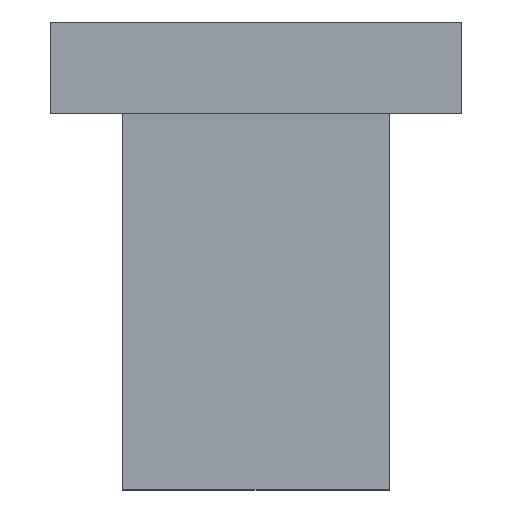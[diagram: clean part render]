
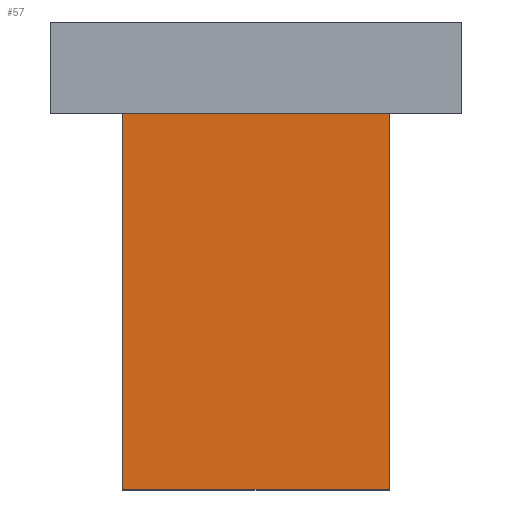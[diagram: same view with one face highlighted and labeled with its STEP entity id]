
A CAD part, top view. The second image highlights one B-rep face of the part: STEP entity #57.
In plain terms, the highlighted planar face has unit normal (0, 0, 1).
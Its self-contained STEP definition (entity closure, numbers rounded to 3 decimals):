
#21 = EDGE_CURVE('',#22,#24,#26,.T.);
#22 = VERTEX_POINT('',#23);
#23 = CARTESIAN_POINT('',(-5.85,0.,6.8));
#24 = VERTEX_POINT('',#25);
#25 = CARTESIAN_POINT('',(-5.85,16.5,6.8));
#26 = LINE('',#27,#28);
#27 = CARTESIAN_POINT('',(-5.85,0.,6.8));
#28 = VECTOR('',#29,1.);
#29 = DIRECTION('',(0.,1.,0.));
#57 = ADVANCED_FACE('',(#58),#83,.T.);
#58 = FACE_BOUND('',#59,.T.);
#59 = EDGE_LOOP('',(#60,#61,#69,#77));
#60 = ORIENTED_EDGE('',*,*,#21,.F.);
#61 = ORIENTED_EDGE('',*,*,#62,.T.);
#62 = EDGE_CURVE('',#22,#63,#65,.T.);
#63 = VERTEX_POINT('',#64);
#64 = CARTESIAN_POINT('',(5.85,0.,6.8));
#65 = LINE('',#66,#67);
#66 = CARTESIAN_POINT('',(-5.85,0.,6.8));
#67 = VECTOR('',#68,1.);
#68 = DIRECTION('',(1.,0.,0.));
#69 = ORIENTED_EDGE('',*,*,#70,.T.);
#70 = EDGE_CURVE('',#63,#71,#73,.T.);
#71 = VERTEX_POINT('',#72);
#72 = CARTESIAN_POINT('',(5.85,16.5,6.8));
#73 = LINE('',#74,#75);
#74 = CARTESIAN_POINT('',(5.85,0.,6.8));
#75 = VECTOR('',#76,1.);
#76 = DIRECTION('',(0.,1.,0.));
#77 = ORIENTED_EDGE('',*,*,#78,.T.);
#78 = EDGE_CURVE('',#71,#24,#79,.T.);
#79 = LINE('',#80,#81);
#80 = CARTESIAN_POINT('',(-7.425,16.5,6.8));
#81 = VECTOR('',#82,1.);
#82 = DIRECTION('',(-1.,0.,0.));
#83 = PLANE('',#84);
#84 = AXIS2_PLACEMENT_3D('',#85,#86,#87);
#85 = CARTESIAN_POINT('',(-5.85,0.,6.8));
#86 = DIRECTION('',(0.,0.,1.));
#87 = DIRECTION('',(1.,0.,0.));
